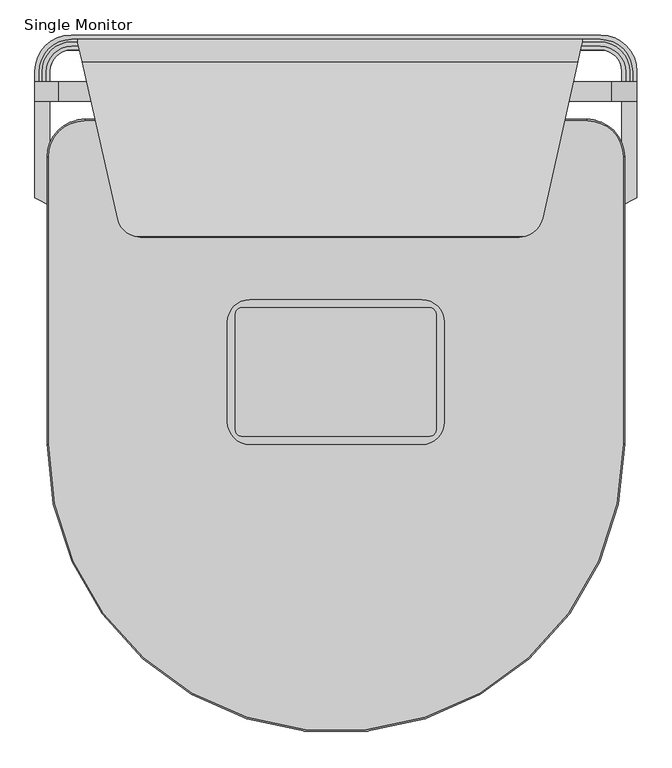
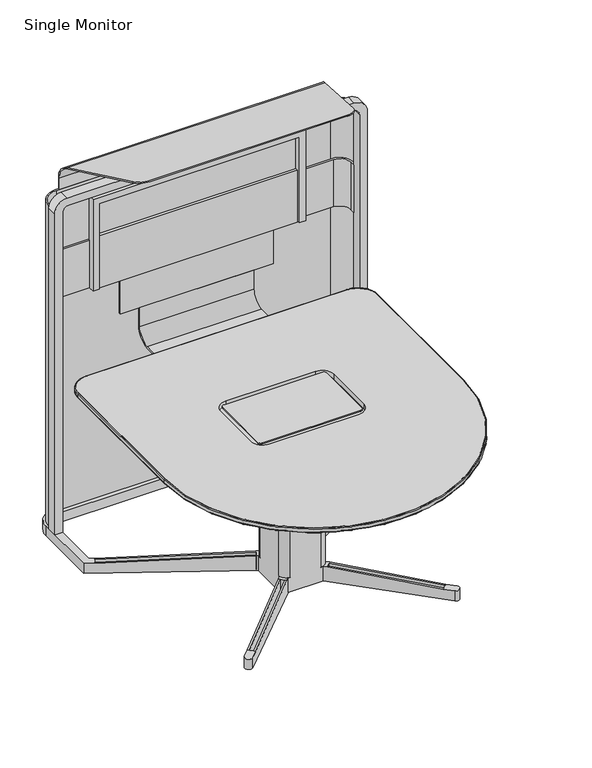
"""IFC4 building model written with IfcOpenShell, lengths in millimetres: furniture geometry, Steelcase - Media Scape - Table - Desk Height - Small D Shape with Attached Totem : Single Monitor."""

from ifc_helpers import new_model, si_unit, point, frame, frame_2d, origin, place, context, project, spatial, polyline, circle_curve, ellipse_curve, trimmed, segment, composite_curve, outline, extrude, faceted_brep, source, transform, mapped, element, save
from ifc_brep_helpers import plane_surface, cylinder_surface, revolved_surface, spline_surface, advanced_brep


def single_monitor_780de22c(model_context):
    return source(origin(), model_context, "Body", "SolidModel", [
        advanced_brep(
        [(1397.2351622, -9.5377223, 1503.3400905), (332.5244847, -9.5377223, 1503.3400905), (332.5244847, -16.6294875, 1534.006464), (341.5808315, -56.6467867, 1569.384563), (1387.7949199, -56.6467867, 1569.384563), (1397.2351622, -14.6177223, 1529.490991), (416.5601746, -387.9581734, 1683.464222), (452.6167787, -425.0561756, 1696.2380886), (1276.5124897, -425.0561756, 1696.2380886), (1313.6061785, -386.9437541, 1683.1149294), (464.9378119, -426.6108286, 1691.7230483), (1264.0410903, -426.6108286, 1691.7230483), (416.5601746, -387.9581734, 1678.4138717), (342.2559242, -59.6298204, 1565.3613536), (1387.124894, -59.6298204, 1565.3613536), (1313.6061785, -386.9437541, 1678.0645792), (332.5244847, -16.6294875, 1518.5197543), (332.5244847, -14.6177223, 1502.2567194), (1397.2351622, -14.6177223, 1502.2567194), (332.5244847, -14.6177223, 1453.4514612), (1397.2351622, -14.6177223, 1453.4514612), (332.5244847, -9.5377223, 1453.4514612), (1397.2351622, -9.5377223, 1453.4514612)],
        [
            (0, 1),
            (1, 2, circle_curve(frame((332.5244847, -79.3877223, 1503.3400905), z_axis=(1.0, 0.0, 0.0), x_axis=(0.0, -1.0, 0.0)), 69.85)),
            (2, 3, ellipse_curve(frame((346.7273507, -79.3877223, 1503.3400905), z_axis=(0.9753352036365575, 0.22072888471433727, 0.0), x_axis=(0.2207288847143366, -0.9753352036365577, 0.0)), 71.616404, 69.85)),
            (3, 4),
            (4, 5, ellipse_curve(frame((1382.6870274, -79.3877223, 1503.3400905), z_axis=(-0.9756907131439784, 0.21915207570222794, 0.0), x_axis=(0.21915207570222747, 0.9756907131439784, 0.0)), 71.5903094, 69.85)),
            (5, 0, circle_curve(frame((1397.2351622, -79.3877223, 1503.3400905), z_axis=(-1.0, 0.0, 0.0), x_axis=(0.0, -1.0, 0.0)), 69.85)),
            (3, 6),
            (6, 7, ellipse_curve(frame((464.9378119, -377.0097919, 1679.6943919), z_axis=(0.0, 0.3255681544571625, 0.9455185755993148), x_axis=(0.0, 0.9455185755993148, -0.32556815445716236)), 52.4590823, 49.6010368)),
            (7, 8),
            (8, 9, ellipse_curve(frame((1264.0410903, -375.8108286, 1679.2815558), z_axis=(0.0, 0.3255681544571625, 0.9455185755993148), x_axis=(0.0, 0.9455185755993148, -0.32556815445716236)), 53.7271306, 50.8)),
            (9, 4),
            (7, 10, ellipse_curve(frame((464.9378119, -377.0097919, 1835.7749188), z_axis=(0.0, -0.9455185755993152, 0.32556815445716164), x_axis=(0.0, -0.3255681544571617, -0.9455185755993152)), 152.3522375, 49.6010368)),
            (10, 11),
            (11, 8, ellipse_curve(frame((1264.0410903, -375.8108286, 1839.2569609), z_axis=(0.0, -0.9455185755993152, 0.32556815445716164), x_axis=(0.0, -0.3255681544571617, -0.9455185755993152)), 156.0349171, 50.8)),
            (10, 12, ellipse_curve(frame((464.9378119, -377.0097919, 1674.6440417), z_axis=(0.0, -0.32556815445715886, -0.9455185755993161), x_axis=(0.0, 0.9455185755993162, -0.32556815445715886)), 52.4590823, 49.6010368)),
            (12, 13),
            (13, 14),
            (14, 15),
            (15, 11, ellipse_curve(frame((1264.0410903, -375.8108286, 1674.2312055), z_axis=(0.0, -0.32556815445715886, -0.9455185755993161), x_axis=(0.0, 0.9455185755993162, -0.32556815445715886)), 53.7271306, 50.8)),
            (13, 16, ellipse_curve(frame((347.1733564, -81.3584885, 1502.2567194), z_axis=(-0.9753352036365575, -0.22072888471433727, 0.0), x_axis=(-0.2207288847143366, 0.9753352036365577, 0.0)), 68.4285423, 66.7407662)),
            (16, 17, circle_curve(frame((332.5244847, -81.3584885, 1502.2567194), z_axis=(-1.0, 0.0, 0.0), x_axis=(0.0, -1.0, 0.0)), 66.7407662)),
            (17, 18),
            (18, 14, ellipse_curve(frame((1382.2443692, -81.3584885, 1502.2567194), z_axis=(0.9756907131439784, -0.21915207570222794, 0.0), x_axis=(-0.21915207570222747, -0.9756907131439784, 0.0)), 68.4036092, 66.7407662)),
            (17, 19),
            (19, 20),
            (20, 18),
            (19, 21),
            (21, 22),
            (22, 20),
            (0, 22),
            (21, 1),
            (12, 6),
            (2, 16),
            (5, 18),
            (9, 15),
        ],
        [
            cylinder_surface(frame((318.3109957, -79.3877223, 1503.3400905), z_axis=(1.0, 0.0, 0.0), x_axis=(0.0, -1.0, 0.0)), 69.85),
            plane_surface(frame((1420.0007044, -56.6467867, 1569.384563), z_axis=(0.0, 0.3255681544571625, 0.9455185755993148), x_axis=(-1.0, 0.0, 0.0))),
            plane_surface(frame((1420.0007044, -425.0561756, 1696.2380886), z_axis=(0.0, -0.9455185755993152, 0.32556815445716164), x_axis=(-1.0, 0.0, 0.0))),
            plane_surface(frame((1420.0007044, -426.6108286, 1691.7230483), z_axis=(0.0, -0.32556815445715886, -0.9455185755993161), x_axis=(-1.0, 0.0, 0.0))),
            revolved_surface(polyline([(332.0692005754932, -148.09925470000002, 1502.2567194), (1397.2351622, -148.09925470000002, 1502.2567194)]), (318.3109957, -81.3584885, 1502.2567194), (-1.0, 0.0, 0.0)),
            plane_surface(frame((1420.0007044, -14.6177223, 1502.2567194), z_axis=(0.0, -1.0, 0.0), x_axis=(-1.0, 0.0, 0.0))),
            plane_surface(frame((1420.0007044, -14.6177223, 1453.4514612), z_axis=(0.0, 0.0, -1.0), x_axis=(-1.0, 0.0, 0.0))),
            plane_surface(frame((1420.0007044, -9.5377223, 1453.4514612), z_axis=(0.0, 1.0, 0.0), x_axis=(-1.0, 0.0, 0.0))),
            plane_surface(frame((416.5601746, -387.9581734, 1813.8324688), z_axis=(-0.9753352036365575, -0.22072888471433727, 0.0), x_axis=(0.0, 0.0, -1.0))),
            plane_surface(frame((332.5244847, -16.6294875, 1813.8324688), z_axis=(-1.0, 0.0, 0.0), x_axis=(0.0, 0.0, -1.0))),
            plane_surface(frame((1397.2351622, -6.3978751, 1813.8324688), z_axis=(1.0, 0.0, 0.0), x_axis=(0.0, 0.0, -1.0))),
            plane_surface(frame((1397.2351622, -14.6177223, 1813.8324688), z_axis=(0.9756907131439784, -0.21915207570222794, 0.0), x_axis=(0.0, 0.0, -1.0))),
            cylinder_surface(frame((1264.0410903, -375.8108286, 1453.4514612), z_axis=(0.0, 0.0, -1.0), x_axis=(1.0, 0.0, 0.0)), 50.8),
            cylinder_surface(frame((464.9378119, -377.0097919, 1453.4514612), z_axis=(0.0, 0.0, -1.0), x_axis=(1.0, 0.0, 0.0)), 49.6010368),
        ],
        [
            (0, [[1, 2, 3, 4, 5, 6]]),
            (1, [[-4, 7, 8, 9, 10, 11]]),
            (2, [[-9, 12, 13, 14]]),
            (3, [[-13, 15, 16, 17, 18, 19]]),
            (4, [[-17, 20, 21, 22, 23]]),
            (5, [[-22, 24, 25, 26]]),
            (6, [[-25, 27, 28, 29]]),
            (7, [[-1, 30, -28, 31]]),
            (8, [[32, -7, -3, 33, -20, -16]]),
            (9, [[-33, -2, -31, -27, -24, -21]]),
            (10, [[34, -26, -29, -30, -6]]),
            (11, [[-34, -5, -11, 35, -18, -23]]),
            (12, [[-35, -10, -14, -19]]),
            (13, [[-32, -15, -12, -8]]),
        ],
    ),
        extrude(outline(composite_curve([segment(polyline([(256.1316294, -78.1177223), (256.1316294, -98.4376787), (251.0516294, -98.4376787), (251.0516294, -78.1177223)]), True, "CONTINUOUS"), segment(trimmed(circle_curve(frame_2d((319.6316294, -78.1177223)), 68.58), [point((251.0516294, -78.1177223))], [point((319.6316294, -9.5377223))], False, "CARTESIAN"), True, "CONTINUOUS"), segment(polyline([(319.6316294, -9.5377223), (1434.9866114, -9.5377223)]), True, "CONTINUOUS"), segment(trimmed(circle_curve(frame_2d((1434.9866114, -78.1177223)), 68.58), [point((1434.9866114, -9.5377223))], [point((1503.5666114, -78.1177223))], False, "CARTESIAN"), True, "CONTINUOUS"), segment(polyline([(1503.5666114, -78.1177223), (1503.5666114, -98.4376787), (1498.4866114, -98.4376787), (1498.4866114, -78.1177223)]), True, "CONTINUOUS"), segment(trimmed(circle_curve(frame_2d((1434.9866114, -78.1177223)), 63.5), [point((1498.4866114, -78.1177223))], [point((1434.9866114, -14.6177223))], True, "CARTESIAN"), True, "CONTINUOUS"), segment(polyline([(1434.9866114, -14.6177223), (319.6316294, -14.6177223)]), True, "CONTINUOUS"), segment(trimmed(circle_curve(frame_2d((319.6316294, -78.1177223)), 63.5), [point((319.6316294, -14.6177223))], [point((256.1316294, -78.1177223))], True, "CARTESIAN"), True, "CONTINUOUS")], self_intersect=False)), frame((0.0, 0.0, 75.7809), z_axis=(0.0, 0.0, 1.0), x_axis=(1.0, 0.0, 0.0)), (0.0, 0.0, 1.0), 1377.6705612),
        extrude(outline(composite_curve([segment(polyline([(347.0842173, -181.3052223), (1407.5340235, -181.3052223)]), True, "CONTINUOUS"), segment(trimmed(circle_curve(frame_2d((1407.5340235, -257.5052223)), 76.2), [point((1407.5340235, -181.3052223))], [point((1483.7340235, -257.5052223))], False, "CARTESIAN"), True, "CONTINUOUS"), segment(polyline([(1483.7340235, -257.5052223), (1483.7340235, -863.6833531)]), True, "CONTINUOUS"), segment(trimmed(circle_curve(frame_2d((877.3091204, -863.6833531)), 606.4249031), [point((1483.7340235, -863.6833531))], [point((270.8842173, -863.6833531))], False, "CARTESIAN"), True, "CONTINUOUS"), segment(polyline([(270.8842173, -863.6833531), (270.8842173, -257.5052223)]), True, "CONTINUOUS"), segment(trimmed(circle_curve(frame_2d((347.0842173, -257.5052223)), 76.2), [point((270.8842173, -257.5052223))], [point((347.0842173, -181.3052223))], False, "CARTESIAN"), True, "CONTINUOUS")], self_intersect=False), holes=[composite_curve([segment(polyline([(648.328039, -606.3800591), (648.328039, -816.3957161)]), True, "CONTINUOUS"), segment(trimmed(circle_curve(frame_2d((696.243457, -816.3957161)), 47.915418), [point((648.328039, -816.3957161))], [point((696.243457, -864.3111341))], True, "CARTESIAN"), True, "CONTINUOUS"), segment(polyline([(696.243457, -864.3111341), (1058.3747838, -864.3111341)]), True, "CONTINUOUS"), segment(trimmed(circle_curve(frame_2d((1058.3747838, -816.3957161)), 47.915418), [point((1058.3747838, -864.3111341))], [point((1106.2902018, -816.3957161))], True, "CARTESIAN"), True, "CONTINUOUS"), segment(polyline([(1106.2902018, -816.3957161), (1106.2902018, -606.3800591)]), True, "CONTINUOUS"), segment(trimmed(circle_curve(frame_2d((1058.6594047, -606.3800591)), 47.6307971), [point((1106.2902018, -606.3800591))], [point((1058.6594047, -558.749262))], True, "CARTESIAN"), True, "CONTINUOUS"), segment(polyline([(1058.6594047, -558.749262), (695.9588361, -558.749262)]), True, "CONTINUOUS"), segment(trimmed(circle_curve(frame_2d((695.9588361, -606.3800591)), 47.6307971), [point((695.9588361, -558.749262))], [point((648.328039, -606.3800591))], True, "CARTESIAN"), True, "CONTINUOUS")], self_intersect=False)]), frame((0.0, 0.0, 727.0013262), z_axis=(0.0, 0.0, 1.0), x_axis=(1.0, 0.0, 0.0)), (0.0, 0.0, 1.0), 20.0660138),
        advanced_brep(
        [(267.7091931, -257.5052223, 730.1763504), (347.0842173, -178.1301981, 730.1763504), (347.0842173, -181.3052223, 727.0013262), (270.8842173, -257.5052223, 727.0013262), (267.7091931, -257.5052223, 743.8923158), (347.0842173, -178.1301981, 743.8923158), (270.8842173, -257.5052223, 747.06734), (347.0842173, -181.3052223, 747.06734), (270.8842173, -863.6833531, 727.0013262), (267.7091931, -863.6833531, 730.1763504), (267.7091931, -863.6833531, 743.8923158), (270.8842173, -863.6833531, 747.06734), (1486.9090478, -863.6833531, 730.1763504), (1483.7340235, -863.6833531, 727.0013262), (1486.9090478, -863.6833531, 743.8923158), (1483.7340235, -863.6833531, 747.06734), (1483.7340235, -257.5052223, 727.0013262), (1486.9090478, -257.5052223, 730.1763504), (1486.9090478, -257.5052223, 743.8923158), (1483.7340235, -257.5052223, 747.06734), (1407.5340235, -178.1301981, 730.1763504), (1407.5340235, -181.3052223, 727.0013262), (1407.5340235, -178.1301981, 743.8923158), (1407.5340235, -181.3052223, 747.06734)],
        [
            (0, 1, circle_curve(frame((347.0842173, -257.5052223, 730.1763504), z_axis=(0.0, 0.0, -1.0), x_axis=(0.0, 1.0, 0.0)), 79.3750242)),
            (1, 2, circle_curve(frame((347.0842173, -181.3052223, 730.1763504), z_axis=(-1.0, 0.0, 0.0), x_axis=(0.0, -1.0, 0.0)), 3.1750242)),
            (2, 3, circle_curve(frame((347.0842173, -257.5052223, 727.0013262), z_axis=(0.0, 0.0, 1.0), x_axis=(0.0, 1.0, 0.0)), 76.2)),
            (3, 0, circle_curve(frame((270.8842173, -257.5052223, 730.1763504), z_axis=(0.0, 1.0, 0.0), x_axis=(1.0, 0.0, 0.0)), 3.1750242)),
            (4, 5, circle_curve(frame((347.0842173, -257.5052223, 743.8923158), z_axis=(0.0, 0.0, -1.0), x_axis=(0.0, 1.0, 0.0)), 79.3750242)),
            (5, 1),
            (0, 4),
            (6, 7, circle_curve(frame((347.0842173, -257.5052223, 747.06734), z_axis=(0.0, 0.0, -1.0), x_axis=(0.0, 1.0, 0.0)), 76.2)),
            (7, 5, circle_curve(frame((347.0842173, -181.3052223, 743.8923158), z_axis=(-1.0, 0.0, 0.0), x_axis=(0.0, -1.0, 0.0)), 3.1750242)),
            (4, 6, circle_curve(frame((270.8842173, -257.5052223, 743.8923158), z_axis=(0.0, 1.0, 0.0), x_axis=(1.0, 0.0, 0.0)), 3.1750242)),
            (2, 7),
            (6, 3),
            (3, 8),
            (8, 9, circle_curve(frame((270.8842173, -863.6833531, 730.1763504), z_axis=(0.0, 1.0, 0.0), x_axis=(1.0, 0.0, 0.0)), 3.1750242)),
            (9, 0),
            (9, 10),
            (10, 4),
            (10, 11, circle_curve(frame((270.8842173, -863.6833531, 743.8923158), z_axis=(0.0, 1.0, 0.0), x_axis=(1.0, 0.0, 0.0)), 3.1750242)),
            (11, 6),
            (11, 8),
            (12, 9, circle_curve(frame((877.3091204, -863.6833531, 730.1763504), z_axis=(0.0, 0.0, -1.0), x_axis=(-1.0, 0.0, 0.0)), 609.5999273)),
            (8, 13, circle_curve(frame((877.3091204, -863.6833531, 727.0013262), z_axis=(0.0, 0.0, 1.0), x_axis=(-1.0, 0.0, 0.0)), 606.4249031)),
            (13, 12, circle_curve(frame((1483.7340235, -863.6833531, 730.1763504), z_axis=(0.0, -1.0, 0.0), x_axis=(-1.0, 0.0, 0.0)), 3.1750242)),
            (14, 10, circle_curve(frame((877.3091204, -863.6833531, 743.8923158), z_axis=(0.0, 0.0, -1.0), x_axis=(-1.0, 0.0, 0.0)), 609.5999273)),
            (12, 14),
            (15, 11, circle_curve(frame((877.3091204, -863.6833531, 747.06734), z_axis=(0.0, 0.0, -1.0), x_axis=(-1.0, 0.0, 0.0)), 606.4249031)),
            (14, 15, circle_curve(frame((1483.7340235, -863.6833531, 743.8923158), z_axis=(0.0, -1.0, 0.0), x_axis=(-1.0, 0.0, 0.0)), 3.1750242)),
            (15, 13),
            (13, 16),
            (16, 17, circle_curve(frame((1483.7340235, -257.5052223, 730.1763504), z_axis=(0.0, -1.0, 0.0), x_axis=(-1.0, 0.0, 0.0)), 3.1750242)),
            (17, 12),
            (17, 18),
            (18, 14),
            (18, 19, circle_curve(frame((1483.7340235, -257.5052223, 743.8923158), z_axis=(0.0, -1.0, 0.0), x_axis=(-1.0, 0.0, 0.0)), 3.1750242)),
            (19, 15),
            (19, 16),
            (20, 17, circle_curve(frame((1407.5340235, -257.5052223, 730.1763504), z_axis=(0.0, 0.0, -1.0), x_axis=(1.0, 0.0, 0.0)), 79.3750242)),
            (16, 21, circle_curve(frame((1407.5340235, -257.5052223, 727.0013262), z_axis=(0.0, 0.0, 1.0), x_axis=(1.0, 0.0, 0.0)), 76.2)),
            (21, 20, circle_curve(frame((1407.5340235, -181.3052223, 730.1763504), z_axis=(1.0, 0.0, 0.0), x_axis=(0.0, -1.0, 0.0)), 3.1750242)),
            (22, 18, circle_curve(frame((1407.5340235, -257.5052223, 743.8923158), z_axis=(0.0, 0.0, -1.0), x_axis=(1.0, 0.0, 0.0)), 79.3750242)),
            (20, 22),
            (23, 19, circle_curve(frame((1407.5340235, -257.5052223, 747.06734), z_axis=(0.0, 0.0, -1.0), x_axis=(1.0, 0.0, 0.0)), 76.2)),
            (22, 23, circle_curve(frame((1407.5340235, -181.3052223, 743.8923158), z_axis=(1.0, 0.0, 0.0), x_axis=(0.0, -1.0, 0.0)), 3.1750242)),
            (23, 21),
            (21, 2),
            (1, 20),
            (5, 22),
            (7, 23),
        ],
        [
            revolved_surface(trimmed(ellipse_curve(frame((347.0842173, -181.3052223, 730.1763504), z_axis=(1.0, 0.0, 0.0), x_axis=(0.0, -1.0, 0.0)), 3.1750242, 3.1750242), [point((347.0842173, -181.3052223, 727.0013262))], [point((347.0842173, -178.1301981, 730.1763504))], True, "CARTESIAN"), (347.0842173, -257.5052223, 160.274), (0.0, 0.0, 1.0)),
            cylinder_surface(frame((347.0842173, -257.5052223, 160.274), z_axis=(0.0, 0.0, 1.0), x_axis=(0.0, 1.0, 0.0)), 79.3750242),
            revolved_surface(trimmed(ellipse_curve(frame((347.0842173, -181.3052223, 743.8923158), z_axis=(1.0, 0.0, 0.0), x_axis=(0.0, -1.0, 0.0)), 3.1750242, 3.1750242), [point((347.0842173, -178.1301981, 743.8923158))], [point((347.0842173, -181.3052223, 747.06734))], True, "CARTESIAN"), (347.0842173, -257.5052223, 160.274), (0.0, 0.0, 1.0)),
            revolved_surface(polyline([(347.0842173, -181.30522230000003, 747.06734), (347.0842173, -181.30522230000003, 727.0013262)]), (347.0842173, -257.5052223, 160.274), (0.0, 0.0, 1.0)),
            cylinder_surface(frame((270.8842173, -257.5052223, 730.1763504), z_axis=(0.0, 1.0, 0.0), x_axis=(1.0, 0.0, 0.0)), 3.1750242),
            plane_surface(frame((267.7091931, -257.5052223, 730.1763504), z_axis=(-1.0, 0.0, 0.0), x_axis=(0.0, -1.0, 0.0))),
            cylinder_surface(frame((270.8842173, -257.5052223, 743.8923158), z_axis=(0.0, 1.0, 0.0), x_axis=(1.0, 0.0, 0.0)), 3.1750242),
            plane_surface(frame((270.8842173, -257.5052223, 747.06734), z_axis=(1.0, 0.0, 0.0), x_axis=(0.0, -1.0, 0.0))),
            revolved_surface(trimmed(ellipse_curve(frame((270.8842173, -863.6833531, 730.1763504), z_axis=(0.0, 1.0, 0.0), x_axis=(1.0, 0.0, 0.0)), 3.1750242, 3.1750242), [point((270.8842173, -863.6833531, 727.0013262))], [point((267.7091931, -863.6833531, 730.1763504))], True, "CARTESIAN"), (877.3091204, -863.6833531, 160.274), (0.0, 0.0, 1.0)),
            cylinder_surface(frame((877.3091204, -863.6833531, 160.274), z_axis=(0.0, 0.0, 1.0), x_axis=(-1.0, 0.0, 0.0)), 609.5999273),
            revolved_surface(trimmed(ellipse_curve(frame((270.8842173, -863.6833531, 743.8923158), z_axis=(0.0, 1.0, 0.0), x_axis=(1.0, 0.0, 0.0)), 3.1750242, 3.1750242), [point((267.7091931, -863.6833531, 743.8923158))], [point((270.8842173, -863.6833531, 747.06734))], True, "CARTESIAN"), (877.3091204, -863.6833531, 160.274), (0.0, 0.0, 1.0)),
            revolved_surface(polyline([(270.88421729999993, -863.6833531, 747.06734), (270.88421729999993, -863.6833531, 727.0013262)]), (877.3091204, -863.6833531, 160.274), (0.0, 0.0, 1.0)),
            cylinder_surface(frame((1483.7340235, -863.6833531, 730.1763504), z_axis=(0.0, -1.0, 0.0), x_axis=(-1.0, 0.0, 0.0)), 3.1750242),
            plane_surface(frame((1486.9090478, -863.6833531, 730.1763504), z_axis=(1.0, 0.0, 0.0), x_axis=(0.0, 1.0, 0.0))),
            cylinder_surface(frame((1483.7340235, -863.6833531, 743.8923158), z_axis=(0.0, -1.0, 0.0), x_axis=(-1.0, 0.0, 0.0)), 3.1750242),
            plane_surface(frame((1483.7340235, -863.6833531, 747.06734), z_axis=(-1.0, 0.0, 0.0), x_axis=(0.0, 1.0, 0.0))),
            revolved_surface(trimmed(ellipse_curve(frame((1483.7340235, -257.5052223, 730.1763504), z_axis=(0.0, -1.0, 0.0), x_axis=(-1.0, 0.0, 0.0)), 3.1750242, 3.1750242), [point((1483.7340235, -257.5052223, 727.0013262))], [point((1486.9090478, -257.5052223, 730.1763504))], True, "CARTESIAN"), (1407.5340235, -257.5052223, 160.274), (0.0, 0.0, 1.0)),
            cylinder_surface(frame((1407.5340235, -257.5052223, 160.274), z_axis=(0.0, 0.0, 1.0), x_axis=(1.0, 0.0, 0.0)), 79.3750242),
            revolved_surface(trimmed(ellipse_curve(frame((1483.7340235, -257.5052223, 743.8923158), z_axis=(0.0, -1.0, 0.0), x_axis=(-1.0, 0.0, 0.0)), 3.1750242, 3.1750242), [point((1486.9090478, -257.5052223, 743.8923158))], [point((1483.7340235, -257.5052223, 747.06734))], True, "CARTESIAN"), (1407.5340235, -257.5052223, 160.274), (0.0, 0.0, 1.0)),
            revolved_surface(polyline([(1483.7340235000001, -257.5052223, 747.06734), (1483.7340235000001, -257.5052223, 727.0013262)]), (1407.5340235, -257.5052223, 160.274), (0.0, 0.0, 1.0)),
            cylinder_surface(frame((1407.5340235, -181.3052223, 730.1763504), z_axis=(1.0, 0.0, 0.0), x_axis=(0.0, -1.0, 0.0)), 3.1750242),
            plane_surface(frame((1407.5340235, -178.1301981, 730.1763504), z_axis=(0.0, 1.0, 0.0), x_axis=(-1.0, 0.0, 0.0))),
            cylinder_surface(frame((1407.5340235, -181.3052223, 743.8923158), z_axis=(1.0, 0.0, 0.0), x_axis=(0.0, -1.0, 0.0)), 3.1750242),
            plane_surface(frame((1407.5340235, -181.3052223, 747.06734), z_axis=(0.0, -1.0, 0.0), x_axis=(-1.0, 0.0, 0.0))),
        ],
        [
            (0, [[1, 2, 3, 4]]),
            (1, [[5, 6, -1, 7]]),
            (2, [[8, 9, -5, 10]]),
            (3, [[-3, 11, -8, 12]]),
            (4, [[-4, 13, 14, 15]]),
            (5, [[-7, -15, 16, 17]]),
            (6, [[-10, -17, 18, 19]]),
            (7, [[-12, -19, 20, -13]]),
            (8, [[21, -14, 22, 23]]),
            (9, [[24, -16, -21, 25]]),
            (10, [[26, -18, -24, 27]]),
            (11, [[-22, -20, -26, 28]]),
            (12, [[-23, 29, 30, 31]]),
            (13, [[-25, -31, 32, 33]]),
            (14, [[-27, -33, 34, 35]]),
            (15, [[-28, -35, 36, -29]]),
            (16, [[37, -30, 38, 39]]),
            (17, [[40, -32, -37, 41]]),
            (18, [[42, -34, -40, 43]]),
            (19, [[-38, -36, -42, 44]]),
            (20, [[-39, 45, -2, 46]]),
            (21, [[-41, -46, -6, 47]]),
            (22, [[-43, -47, -9, 48]]),
            (23, [[-44, -48, -11, -45]]),
        ],
    ),
        advanced_brep(
        [(347.3175364, -245.0384687, 717.47634), (1407.3007044, -245.0384687, 717.47634), (1420.0007044, -257.7384687, 717.47634), (1420.0007044, -864.5887133, 717.47634), (334.6175364, -864.5887133, 717.47634), (334.6175364, -257.7384687, 717.47634), (347.0842173, -181.3052223, 727.0013262), (270.8842173, -257.5052223, 727.0013262), (270.8842173, -863.6833531, 727.0013262), (1483.7340235, -863.6833531, 727.0013262), (1483.7340235, -257.5052223, 727.0013262), (1407.5340235, -181.3052223, 727.0013262)],
        [
            (0, 1),
            (1, 2, circle_curve(frame((1407.3007044, -257.7384687, 717.47634), z_axis=(0.0, 0.0, -1.0), x_axis=(1.0, 0.0, 0.0)), 12.7)),
            (2, 3),
            (3, 4, circle_curve(frame((877.3091204, -864.5887133, 717.47634), z_axis=(0.0, 0.0, -1.0), x_axis=(1.0, 0.0, 0.0)), 542.691584)),
            (4, 5),
            (5, 0, circle_curve(frame((347.3175364, -257.7384687, 717.47634), z_axis=(0.0, 0.0, -1.0), x_axis=(1.0, 0.0, 0.0)), 12.7)),
            (6, 7, circle_curve(frame((347.0842173, -257.5052223, 727.0013262), z_axis=(0.0, 0.0, 1.0), x_axis=(1.0, 0.0, 0.0)), 76.2)),
            (7, 8),
            (8, 9, circle_curve(frame((877.3091204, -863.6833531, 727.0013262), z_axis=(0.0, 0.0, 1.0), x_axis=(1.0, 0.0, 0.0)), 606.4249031)),
            (9, 10),
            (10, 11, circle_curve(frame((1407.5340235, -257.5052223, 727.0013262), z_axis=(0.0, 0.0, 1.0), x_axis=(1.0, 0.0, 0.0)), 76.2)),
            (11, 6),
            (11, 1),
            (0, 6),
            (10, 2),
            (9, 3),
            (8, 4),
            (7, 5),
        ],
        [
            plane_surface(frame((877.3091204, -455.7885502, 717.47634), z_axis=(0.0, 0.0, -1.0), x_axis=(-1.0, 0.0, 0.0))),
            plane_surface(frame((877.3091204, -434.1645992, 727.0013262), z_axis=(0.0, 0.0, 1.0), x_axis=(-1.0, 0.0, 0.0))),
            plane_surface(frame((877.3091204, -181.3052223, 727.0013262), z_axis=(0.0, 0.1478092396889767, -0.9890158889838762), x_axis=(1.0, 0.0, 0.0))),
            spline_surface(2, 1, [[(1407.5340235, -181.3052223, 727.0013262), (1407.3007044, -245.0384687, 717.47634)], [(1483.7340235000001, -181.3052222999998, 727.0013262), (1420.0007044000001, -245.03846869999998, 717.47634)], [(1483.7340235, -257.5052223, 727.0013262), (1420.0007044, -257.7384687, 717.47634)]], [3, 3], [2, 2], [0.0, 1.0], [0.0, 1.0], weights=[[1.0, 1.0], [0.7071067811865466, 0.7071067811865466], [1.0, 1.0]]),
            plane_surface(frame((1483.7340235, -560.5942877, 727.0013262), z_axis=(0.1478090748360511, 0.0, -0.9890159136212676), x_axis=(0.0, -1.0, 0.0))),
            spline_surface(2, 1, [[(1483.7340235, -863.6833531, 727.0013262), (1420.0007044, -864.5887133, 717.47634)], [(1483.7340235, -1470.1082562, 727.0013262), (1420.0007044, -1407.2802972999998, 717.47634)], [(877.3091204, -1470.1082562, 727.0013262), (877.3091204, -1407.2802972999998, 717.47634)], [(270.88421730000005, -1470.1082562, 727.0013262), (334.61753640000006, -1407.2802972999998, 717.47634)], [(270.8842173, -863.6833531, 727.0013262), (334.6175364, -864.5887133, 717.47634)]], [3, 2, 3], [2, 2], [0.0, 1.0, 2.0], [0.0, 1.0], weights=[[1.0, 1.0], [0.7071067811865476, 0.7071067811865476], [1.0, 1.0], [0.7071067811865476, 0.7071067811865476], [1.0, 1.0]]),
            plane_surface(frame((270.8842173, -560.5942877, 727.0013262), z_axis=(-0.14780907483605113, 0.0, -0.9890159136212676), x_axis=(0.0, 1.0, 0.0))),
            spline_surface(2, 1, [[(270.8842173, -257.5052223, 727.0013262), (334.6175364, -257.7384687, 717.47634)], [(270.8842173, -181.30522230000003, 727.0013262), (334.6175364, -245.0384687, 717.47634)], [(347.0842173, -181.3052223, 727.0013262), (347.3175364, -245.0384687, 717.47634)]], [3, 3], [2, 2], [0.0, 1.0], [0.0, 1.0], weights=[[1.0, 1.0], [0.7071067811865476, 0.7071067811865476], [1.0, 1.0]]),
        ],
        [
            (0, [[1, 2, 3, 4, 5, 6]]),
            (1, [[7, 8, 9, 10, 11, 12]]),
            (2, [[-12, 13, -1, 14]]),
            (3, [[-11, 15, -2, -13]]),
            (4, [[-10, 16, -3, -15]]),
            (5, [[-9, 17, -4, -16]]),
            (6, [[-8, 18, -5, -17]]),
            (7, [[-7, -14, -6, -18]]),
        ],
    ),
        extrude(outline(composite_curve([segment(trimmed(circle_curve(frame_2d((1075.9751918, -588.6576593)), 12.7), [point((1075.9751918, -575.9576593))], [point((1088.6751918, -588.6576593))], False, "CARTESIAN"), True, "CONTINUOUS"), segment(polyline([(1088.6751918, -588.6576593), (1088.6751918, -833.8946767)]), True, "CONTINUOUS"), segment(trimmed(circle_curve(frame_2d((1075.9751918, -833.8946767)), 12.7), [point((1088.6751918, -833.8946767))], [point((1075.9751918, -846.5946767))], False, "CARTESIAN"), True, "CONTINUOUS"), segment(polyline([(1075.9751918, -846.5946767), (678.1351344, -846.5946767)]), True, "CONTINUOUS"), segment(trimmed(circle_curve(frame_2d((678.1351344, -833.8946767)), 12.7), [point((678.1351344, -846.5946767))], [point((665.4351344, -833.8946767))], False, "CARTESIAN"), True, "CONTINUOUS"), segment(polyline([(665.4351344, -833.8946767), (665.4351344, -588.6576593)]), True, "CONTINUOUS"), segment(trimmed(circle_curve(frame_2d((678.1351344, -588.6576593)), 12.7), [point((665.4351344, -588.6576593))], [point((678.1351344, -575.9576593))], False, "CARTESIAN"), True, "CONTINUOUS"), segment(polyline([(678.1351344, -575.9576593), (1075.9751918, -575.9576593)]), True, "CONTINUOUS")], self_intersect=False)), frame((0.0, 0.0, 743.00334), z_axis=(0.0, 0.0, 1.0), x_axis=(1.0, 0.0, 0.0)), (0.0, 0.0, 1.0), 4.064),
        faceted_brep([(974.6418421, -612.9147058, 512.96062), (974.6418421, -810.1456903, 512.96062), (779.9763987, -810.1456903, 512.96062), (779.9763987, -612.9147058, 512.96062), (1321.8090235, -267.0302223, 717.47634), (432.8092173, -267.0302223, 717.47634), (432.8092173, -1156.0302465, 717.47634), (1321.8090235, -1156.0302465, 717.47634)], [[[0, 1, 2, 3]], [[4, 5, 6, 7]], [[4, 7, 1, 0]], [[7, 6, 2, 1]], [[6, 5, 3, 2]], [[5, 4, 0, 3]]]),
        extrude(outline(composite_curve([segment(polyline([(-328.7191894, 715.924386), (-93.2222148, 715.924386)]), True, "CONTINUOUS"), segment(trimmed(circle_curve(frame_2d((-93.2222148, 769.3651209)), 53.4407348), [point((-93.2222148, 715.924386))], [point((-39.78148, 769.3651209))], True, "CARTESIAN"), True, "CONTINUOUS"), segment(polyline([(-39.78148, 769.3651209), (-39.78148, 850.8492172), (-31.84398, 850.8492172), (-31.84398, 769.0831022)]), True, "CONTINUOUS"), segment(trimmed(circle_curve(frame_2d((-92.9528649, 769.0831022)), 61.1088849), [point((-31.84398, 769.0831022))], [point((-92.9528649, 707.9742172))], False, "CARTESIAN"), True, "CONTINUOUS"), segment(polyline([(-92.9528649, 707.9742172), (-328.7191894, 707.9742172), (-328.7191894, 715.924386)]), True, "CONTINUOUS")], self_intersect=False)), frame((645.5341157, 0.0, 0.0), z_axis=(1.0, 0.0, 0.0), x_axis=(0.0, 1.0, 0.0)), (0.0, 0.0, 1.0), 463.55),
        extrude(outline(polyline([(1188.4590235, -39.78148), (566.1592173, -39.78148), (566.1592173, -31.84398), (1188.4590235, -31.84398), (1188.4590235, -39.78148)])), frame((0.0, 0.0, 850.8492172), z_axis=(0.0, 0.0, 1.0), x_axis=(1.0, 0.0, 0.0)), (0.0, 0.0, 1.0), 146.4817828),
        extrude(outline(composite_curve([segment(trimmed(circle_curve(frame_2d((1435.112425, -77.4940467)), 53.5875745), [point((1435.112425, -23.9064722))], [point((1488.6999995, -77.4940467))], False, "CARTESIAN"), True, "CONTINUOUS"), segment(polyline([(1488.6999995, -77.4940467), (1488.6999995, -98.4376787), (1480.7572357, -98.4376787), (1480.7572357, -76.2)]), True, "CONTINUOUS"), segment(trimmed(circle_curve(frame_2d((1436.3072357, -76.2)), 44.45), [point((1480.7572357, -76.2))], [point((1436.3072357, -31.75))], True, "CARTESIAN"), True, "CONTINUOUS"), segment(polyline([(1436.3072357, -31.75), (318.3109957, -31.75)]), True, "CONTINUOUS"), segment(trimmed(circle_curve(frame_2d((318.3109957, -76.2)), 44.45), [point((318.3109957, -31.75))], [point((273.8609957, -76.2))], True, "CARTESIAN"), True, "CONTINUOUS"), segment(polyline([(273.8609957, -76.2), (273.8609957, -98.4376787), (265.9182414, -98.4376787), (265.9182414, -77.9390932)]), True, "CONTINUOUS"), segment(trimmed(circle_curve(frame_2d((319.9508624, -77.9390932)), 54.032621), [point((265.9182414, -77.9390932))], [point((319.9508624, -23.9064722))], False, "CARTESIAN"), True, "CONTINUOUS"), segment(polyline([(319.9508624, -23.9064722), (1435.112425, -23.9064722)]), True, "CONTINUOUS")], self_intersect=False)), frame((0.0, 0.0, 1002.8936), z_axis=(0.0, 0.0, 1.0), x_axis=(1.0, 0.0, 0.0)), (0.0, 0.0, 1.0), 203.1999946),
        extrude(outline(polyline([(1283.7091157, -44.18838), (470.9091157, -44.18838), (470.9091157, -31.84398), (1283.7091157, -31.84398), (1283.7091157, -44.18838)])), frame((0.0, 0.0, 997.331), z_axis=(0.0, 0.0, 1.0), x_axis=(1.0, 0.0, 0.0)), (0.0, 0.0, 1.0), 223.5199787),
        extrude(outline(polyline([(1396.5935946, 1309.1091157), (1396.5935946, 445.5091157), (1002.8936, 445.5091157), (1002.8936, 470.9091157), (1371.1936188, 470.9091157), (1371.1936188, 1283.7091157), (1002.8936, 1283.7091157), (1002.8936, 1309.1091157), (1396.5935946, 1309.1091157)])), frame((0.0, -57.24398, 0.0), z_axis=(0.0, 1.0, 0.0), x_axis=(0.0, 0.0, 1.0)), (0.0, 0.0, 1.0), 25.4),
        extrude(outline(composite_curve([segment(polyline([(1506.461307, 1458.026709), (1506.461307, 292.9109957)]), True, "CONTINUOUS"), segment(trimmed(circle_curve(frame_2d((1455.661307, 292.9109957)), 50.8), [point((1506.461307, 292.9109957))], [point((1455.661307, 242.1109957))], False, "CARTESIAN"), True, "CONTINUOUS"), segment(polyline([(1455.661307, 242.1109957), (75.7809, 242.1109957), (75.7809, 273.8609957), (1449.3113554, 273.8609957)]), True, "CONTINUOUS"), segment(trimmed(circle_curve(frame_2d((1449.3113554, 299.2609957)), 25.4), [point((1449.3113554, 273.8609957))], [point((1474.7113554, 299.2609957))], True, "CARTESIAN"), True, "CONTINUOUS"), segment(polyline([(1474.7113554, 299.2609957), (1474.7113554, 1455.3572357)]), True, "CONTINUOUS"), segment(trimmed(circle_curve(frame_2d((1449.3113554, 1455.3572357)), 25.4), [point((1474.7113554, 1455.3572357))], [point((1449.3113554, 1480.7572357))], True, "CARTESIAN"), True, "CONTINUOUS"), segment(polyline([(1449.3113554, 1480.7572357), (75.7809, 1480.7572357), (75.7809, 1512.5072357), (1451.9807802, 1512.5072357)]), True, "CONTINUOUS"), segment(trimmed(circle_curve(frame_2d((1451.9807802, 1458.026709)), 54.4805267), [point((1451.9807802, 1512.5072357))], [point((1506.461307, 1458.026709))], False, "CARTESIAN"), True, "CONTINUOUS")], self_intersect=False)), frame((0.0, -139.7127029, 0.0), z_axis=(0.0, 1.0, 0.0), x_axis=(0.0, 0.0, 1.0)), (0.0, 0.0, 1.0), 41.2750029),
        advanced_brep(
        [(795.1398807, -816.1500753, 96.4980935), (496.5337614, -1114.7561946, 78.1912503), (466.7095253, -1144.5804307, 78.1912484), (466.7095253, -1144.5804307, 34.5059), (806.101066, -805.18889, 34.5059), (806.101066, -805.18889, 96.4819), (490.9301304, -1109.1525636, 78.1912503), (789.5362497, -810.5464443, 96.4980935), (789.5362182, -810.5464758, 34.5059), (490.9301304, -1109.1525636, 34.5059), (444.3359542, -1122.0596947, 34.5059), (783.6504257, -782.7382497, 34.5059), (783.6504257, -635.922573, 34.5059), (242.1109957, -343.1132955, 34.5059), (242.1109957, -76.2, 34.5059), (318.3109957, 0.0, 34.5059), (1436.3072357, 0.0, 34.5059), (1512.5072357, -76.2, 34.5059), (1512.5072357, -343.1133005, 34.5059), (970.9678057, -635.922573, 34.5059), (970.9678057, -782.7382497, 34.5059), (1310.2822773, -1122.0596947, 34.5059), (1287.9052194, -1144.5839174, 34.5059), (948.5171654, -805.18889, 34.5059), (778.2998449, -799.3100395, 34.5059), (479.6937256, -1097.9161588, 34.5059), (965.0819818, -810.5464443, 34.5059), (1263.6881011, -1109.1525636, 34.5059), (1274.9246512, -1097.9163041, 34.5059), (976.3183866, -799.3100395, 34.5059), (974.1873708, -625.161887, 34.5059), (1474.1181479, -354.8610796, 34.5059), (1466.5582287, -340.8783065, 34.5059), (966.627268, -611.1792131, 34.5059), (1480.7572357, -324.1923447, 34.5059), (1480.7572357, -76.2, 34.5059), (1436.3072357, -31.75, 34.5059), (318.3109957, -31.75, 34.5059), (273.8609957, -76.2, 34.5059), (273.8609957, -324.1923396, 34.5059), (817.0200649, -617.87151, 34.5059), (937.5981666, -617.87151, 34.5059), (787.9909729, -611.1792131, 34.5059), (288.0601958, -340.8784057, 34.5059), (280.500093, -354.8610796, 34.5059), (780.4308701, -625.161887, 34.5059), (474.0863901, -1092.3092588, 78.1912484), (444.3359542, -1122.0596947, 78.1912484), (479.6935803, -1097.9163041, 78.1912484), (772.6927272, -793.7029217, 96.4980935), (783.6539125, -782.7417364, 96.4819), (778.2997408, -799.3101436, 96.4819), (815.4004257, -805.18889, 96.4819), (783.6504257, -773.43889, 96.4819), (817.0200649, -617.87151, 96.4819), (791.7578337, -604.2122725, 96.4819), (787.9909729, -611.1792131, 96.4819), (780.4308701, -625.161887, 96.4819), (776.6617922, -632.132928, 96.4819), (783.6504257, -635.922573, 96.4819), (783.6504257, -649.62151, 96.4819), (815.4004257, -617.87151, 96.4819), (948.5171654, -805.18889, 96.4819), (959.4783507, -816.1500753, 96.4819), (965.082018, -810.5464805, 96.4819), (976.3184954, -799.3101483, 96.4819), (981.9221627, -793.7065535, 96.4819), (970.9678057, -782.7382497, 96.4819), (970.9678057, -773.43889, 96.4819), (939.2178057, -805.18889, 96.4819), (970.9678057, -635.922573, 96.4819), (977.9610088, -632.1413622, 96.4819), (974.1873708, -625.161887, 96.4819), (966.627268, -611.1792131, 96.4819), (962.8604051, -604.2122686, 96.4819), (937.5981666, -617.87151, 96.4819), (939.2178057, -617.87151, 96.4819), (970.9678057, -649.62151, 96.4819), (273.8634402, -324.1878186, 75.7809), (291.8315564, -333.9031428, 75.7809), (276.7309526, -361.8322363, 75.7809214), (242.1109957, -343.1132955, 75.7809), (783.6504257, -773.43889, 512.96062), (783.6504257, -649.62151, 512.96062), (939.2178057, -805.18889, 512.96062), (815.4004257, -805.18889, 512.96062), (1287.9087062, -1144.5804307, 78.1912484), (1258.0846878, -1114.7564124, 78.1912484), (1280.5351104, -1092.3055543, 78.1912503), (1310.285764, -1122.056208, 78.1912484), (970.9678057, -649.62151, 512.96062), (970.9678057, -773.43889, 512.96062), (1512.5072336, -343.1132966, 75.7809), (1477.8872861, -361.8322324, 75.7809), (1462.7868659, -333.9030396, 75.7809138), (1480.7547891, -324.1878198, 75.7809), (815.4004257, -617.87151, 512.96062), (939.2178057, -617.87151, 512.96062), (280.500093, -354.8610796, 75.7809), (288.0596793, -340.8781265, 75.7809), (1263.6881011, -1109.1525636, 78.1912503), (1274.9245379, -1097.9161908, 78.1912484), (1474.1181479, -354.8610796, 75.7809214), (1466.5580451, -340.8784057, 75.7809), (273.8609957, -76.2, 75.7809), (318.3109957, -31.75, 75.7809), (1436.3072357, -31.75, 75.7809), (1480.7572357, -76.2, 75.7809), (1512.5072357, -76.2, 75.7809), (1436.3072357, 0.0, 75.7809), (318.3109957, 0.0, 75.7809), (242.1109957, -76.2, 75.7809)],
        [
            (0, 1),
            (1, 2),
            (2, 3),
            (3, 4),
            (4, 5),
            (5, 0),
            (6, 7),
            (7, 8),
            (8, 9),
            (9, 6),
            (3, 10, circle_curve(frame((457.2176952, -1131.6396568, 34.5059), z_axis=(0.0, 0.0, -1.0), x_axis=(-1.0, 0.0, 0.0)), 16.053502)),
            (10, 11),
            (11, 12),
            (12, 13),
            (13, 14),
            (14, 15, circle_curve(frame((318.3109957, -76.2, 34.5059), z_axis=(0.0, 0.0, -1.0), x_axis=(1.0, 0.0, 0.0)), 76.2)),
            (15, 16),
            (16, 17, circle_curve(frame((1436.3072357, -76.2, 34.5059), z_axis=(0.0, 0.0, -1.0), x_axis=(1.0, 0.0, 0.0)), 76.2)),
            (17, 18),
            (18, 19),
            (19, 20),
            (20, 21),
            (21, 22, circle_curve(frame((1297.4005363, -1131.6396568, 34.5059), z_axis=(0.0, 0.0, -1.0), x_axis=(1.0, 0.0, 0.0)), 16.053502)),
            (22, 23),
            (23, 4),
            (8, 24),
            (24, 25),
            (25, 9),
            (26, 27),
            (27, 28),
            (28, 29),
            (29, 26),
            (30, 31),
            (31, 32),
            (32, 33),
            (33, 30),
            (34, 35),
            (35, 36, circle_curve(frame((1436.3072357, -76.2, 34.5059), z_axis=(0.0, 0.0, 1.0), x_axis=(1.0, 0.0, 0.0)), 44.45)),
            (36, 37),
            (37, 38, circle_curve(frame((318.3109957, -76.2, 34.5059), z_axis=(0.0, 0.0, 1.0), x_axis=(1.0, 0.0, 0.0)), 44.45)),
            (38, 39),
            (39, 40),
            (40, 41),
            (41, 34),
            (42, 43),
            (43, 44),
            (44, 45),
            (45, 42),
            (0, 7),
            (6, 1),
            (46, 47),
            (47, 2, circle_curve(frame((457.2176952, -1131.6396568, 78.1912484), z_axis=(0.0, 0.0, 1.0), x_axis=(-1.0, 0.0, 0.0)), 16.053502)),
            (6, 48),
            (48, 46),
            (25, 48),
            (46, 49),
            (49, 50),
            (50, 11),
            (10, 47),
            (24, 51),
            (51, 48),
            (51, 49),
            (51, 7),
            (5, 52),
            (52, 53, circle_curve(frame((815.4004257, -773.43889, 96.4819), z_axis=(0.0, 0.0, -1.0), x_axis=(1.0, 0.0, 0.0)), 31.75)),
            (53, 50),
            (54, 55),
            (55, 56),
            (56, 57),
            (57, 58),
            (58, 59),
            (59, 60),
            (60, 61, circle_curve(frame((815.4004257, -649.62151, 96.4819), z_axis=(0.0, 0.0, -1.0), x_axis=(1.0, 0.0, 0.0)), 31.75)),
            (61, 54),
            (62, 63),
            (63, 64),
            (64, 65),
            (65, 66),
            (66, 67),
            (67, 68),
            (68, 69, circle_curve(frame((939.2178057, -773.43889, 96.4819), z_axis=(0.0, 0.0, -1.0), x_axis=(1.0, 0.0, 0.0)), 31.75)),
            (69, 62),
            (70, 71),
            (71, 72),
            (72, 73),
            (73, 74),
            (74, 75),
            (75, 76),
            (76, 77, circle_curve(frame((939.2178057, -649.62151, 96.4819), z_axis=(0.0, 0.0, -1.0), x_axis=(1.0, 0.0, 0.0)), 31.75)),
            (77, 70),
            (54, 40),
            (39, 78),
            (78, 79),
            (79, 55),
            (45, 57),
            (56, 42),
            (58, 80),
            (80, 81),
            (81, 13),
            (12, 59),
            (53, 82),
            (82, 83),
            (83, 60),
            (23, 62),
            (69, 84),
            (84, 85),
            (85, 52),
            (22, 86),
            (86, 87),
            (87, 63),
            (64, 26),
            (29, 65),
            (66, 88),
            (88, 89),
            (89, 21),
            (20, 67),
            (19, 70),
            (77, 90),
            (90, 91),
            (91, 68),
            (18, 92),
            (92, 93),
            (93, 71),
            (72, 30),
            (33, 73),
            (74, 94),
            (94, 95),
            (95, 34),
            (41, 75),
            (61, 96),
            (96, 97),
            (97, 76),
            (44, 98),
            (98, 57),
            (98, 80),
            (56, 99),
            (99, 43),
            (79, 99),
            (64, 100),
            (100, 27),
            (87, 100),
            (86, 89, circle_curve(frame((1297.4005363, -1131.6396568, 78.1912484), z_axis=(0.0, 0.0, 1.0), x_axis=(1.0, 0.0, 0.0)), 16.053502)),
            (88, 101),
            (101, 100),
            (101, 28),
            (101, 65),
            (72, 102),
            (102, 31),
            (93, 102),
            (32, 103),
            (103, 73),
            (103, 94),
            (96, 83, circle_curve(frame((815.4004257, -649.62151, 512.96062), z_axis=(0.0, 0.0, 1.0), x_axis=(1.0, 0.0, 0.0)), 31.75)),
            (82, 85, circle_curve(frame((815.4004257, -773.43889, 512.96062), z_axis=(0.0, 0.0, 1.0), x_axis=(1.0, 0.0, 0.0)), 31.75)),
            (84, 91, circle_curve(frame((939.2178057, -773.43889, 512.96062), z_axis=(0.0, 0.0, 1.0), x_axis=(1.0, 0.0, 0.0)), 31.75)),
            (90, 97, circle_curve(frame((939.2178057, -649.62151, 512.96062), z_axis=(0.0, 0.0, 1.0), x_axis=(1.0, 0.0, 0.0)), 31.75)),
            (104, 105, circle_curve(frame((318.3109957, -76.2, 75.7809), z_axis=(0.0, 0.0, -1.0), x_axis=(1.0, 0.0, 0.0)), 44.45)),
            (105, 106),
            (106, 107, circle_curve(frame((1436.3072357, -76.2, 75.7809), z_axis=(0.0, 0.0, -1.0), x_axis=(1.0, 0.0, 0.0)), 44.45)),
            (107, 95),
            (103, 102),
            (92, 108),
            (108, 109, circle_curve(frame((1436.3072357, -76.2, 75.7809), z_axis=(0.0, 0.0, 1.0), x_axis=(1.0, 0.0, 0.0)), 76.2)),
            (109, 110),
            (110, 111, circle_curve(frame((318.3109957, -76.2, 75.7809), z_axis=(0.0, 0.0, 1.0), x_axis=(1.0, 0.0, 0.0)), 76.2)),
            (111, 81),
            (98, 99),
            (78, 104),
            (104, 38),
            (37, 105),
            (36, 106),
            (35, 107),
            (17, 108),
            (16, 109),
            (15, 110),
            (14, 111),
        ],
        [
            plane_surface(frame((269.1950793, -1342.0948768, 34.5059), z_axis=(0.7071067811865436, -0.7071067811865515, 0.0), x_axis=(0.7071067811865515, 0.7071067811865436, 0.0))),
            plane_surface(frame((263.5914482, -1336.4912458, 34.5059), z_axis=(-0.7071067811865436, 0.7071067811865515, 0.0), x_axis=(-0.7071067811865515, -0.7071067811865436, 0.0))),
            plane_surface(frame((496.5337614, -1114.7561946, 34.5059), z_axis=(0.0, 0.0, -1.0000000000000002), x_axis=(-0.707106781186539, 0.7071067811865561, 0.0))),
            plane_surface(frame((795.1398807, -816.1500753, 96.4980935), z_axis=(-0.030625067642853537, -0.030625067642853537, 0.9990616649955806), x_axis=(-0.7071067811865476, 0.7071067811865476, 0.0))),
            plane_surface(frame((474.0863901, -1092.3092588, 78.1912484), z_axis=(0.0, 0.0, 1.0000000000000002), x_axis=(-0.7071067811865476, 0.7071067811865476, 0.0))),
            plane_surface(frame((496.5370304, -1114.7598991, 78.1912484), z_axis=(0.7071067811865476, 0.7071067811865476, 0.0), x_axis=(0.0, 0.0, -1.0))),
            plane_surface(frame((474.0863901, -1092.3092588, 78.1912484), z_axis=(-0.7071067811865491, 0.7071067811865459, 0.0), x_axis=(0.0, 0.0, -1.0))),
            cylinder_surface(frame((457.2176952, -1131.6396568, 34.5059), z_axis=(0.0, 0.0, 1.0), x_axis=(-1.0, 0.0, 0.0)), 16.053502),
            plane_surface(frame((479.6937256, -1097.9161588, 75.7808986), z_axis=(0.7071067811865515, -0.7071067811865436, 0.0), x_axis=(0.0, 0.0, -1.0))),
            plane_surface(frame((474.0900945, -1092.3125278, 78.1912503), z_axis=(-0.030625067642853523, -0.030625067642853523, 0.9990616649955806), x_axis=(0.7071067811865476, -0.7071067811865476, 0.0))),
            plane_surface(frame((817.0200649, -617.87151, 96.4819), z_axis=(0.0, 0.0, 1.0), x_axis=(-0.8796485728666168, 0.47562420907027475, 0.0))),
            plane_surface(frame((817.0200649, -617.87151, 96.4819), z_axis=(0.47562420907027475, 0.8796485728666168, 0.0), x_axis=(0.0, 0.0, -1.0))),
            plane_surface(frame((791.7578337, -604.2122725, 96.4819), z_axis=(-0.8796564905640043, 0.475609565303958, 0.0), x_axis=(0.0, 0.0, -1.0))),
            plane_surface(frame((776.65723, -632.1413661, 96.4819), z_axis=(-0.47562420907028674, -0.8796485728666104, 0.0), x_axis=(0.0, 0.0, -1.0))),
            plane_surface(frame((783.6504257, -635.922573, 96.4819), z_axis=(-1.0, 0.0, 0.0), x_axis=(0.0, 0.0, -1.0))),
            plane_surface(frame((772.6891, -793.6995754, 96.4819), z_axis=(-0.7071022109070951, -0.7071113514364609, 0.0), x_axis=(0.0, 0.0, -1.0))),
            plane_surface(frame((806.101066, -805.18889, 96.4819), z_axis=(0.0, -1.0, 0.0), x_axis=(0.0, 0.0, -1.0))),
            plane_surface(frame((948.5171654, -805.18889, 96.4819), z_axis=(-0.7071067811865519, -0.7071067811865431, 0.0), x_axis=(0.0, 0.0, -1.0))),
            plane_surface(frame((959.4783507, -816.1500753, 96.4819), z_axis=(0.7071022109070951, -0.7071113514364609, 0.0), x_axis=(0.0, 0.0, -1.0))),
            plane_surface(frame((981.9291362, -793.6995801, 96.4819), z_axis=(0.7071067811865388, 0.7071067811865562, 0.0), x_axis=(0.0, 0.0, -1.0))),
            plane_surface(frame((970.9678057, -782.7382497, 96.4819), z_axis=(1.0, 0.0, 0.0), x_axis=(0.0, 0.0, -1.0))),
            plane_surface(frame((970.9678057, -635.922573, 96.4819), z_axis=(0.47562420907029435, -0.8796485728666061, 0.0), x_axis=(0.0, 0.0, -1.0))),
            plane_surface(frame((977.9610088, -632.1413622, 96.4819), z_axis=(0.8796564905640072, 0.4756095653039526, 0.0), x_axis=(0.0, 0.0, -1.0))),
            plane_surface(frame((962.8604051, -604.2122686, 96.4819), z_axis=(-0.4756242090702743, 0.879648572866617, 0.0), x_axis=(0.0, 0.0, -1.0))),
            plane_surface(frame((937.5981666, -617.87151, 96.4819), z_axis=(0.0, 1.0, 0.0), x_axis=(0.0, 0.0, -1.0))),
            plane_surface(frame((780.4308701, -625.161887, 34.5058993), z_axis=(0.475609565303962, 0.8796564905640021, 0.0), x_axis=(0.0, 0.0, -1.0))),
            plane_surface(frame((280.500093, -354.8610796, 75.7809214), z_axis=(-0.032055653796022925, 0.017331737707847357, 0.9993358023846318), x_axis=(-0.47560956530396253, -0.8796564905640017, 0.0))),
            plane_surface(frame((787.9909729, -611.1792131, 34.5058993), z_axis=(-0.475609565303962, -0.8796564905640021, 0.0), x_axis=(0.0, 0.0, 1.0))),
            plane_surface(frame((287.0464007, -331.3213778, 75.582652), z_axis=(-0.032055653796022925, 0.017331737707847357, 0.9993358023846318), x_axis=(-0.47560956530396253, -0.8796564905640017, 0.0))),
            plane_surface(frame((1263.6881011, -1109.1525636, 75.7808986), z_axis=(0.7071067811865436, 0.7071067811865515, 0.0), x_axis=(0.0, 0.0, -1.0))),
            plane_surface(frame((1258.0844701, -1114.7561946, 78.1912503), z_axis=(0.030625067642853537, -0.030625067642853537, 0.9990616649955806), x_axis=(0.7071067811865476, 0.7071067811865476, 0.0))),
            plane_surface(frame((1258.0812011, -1114.7598991, 78.1912484), z_axis=(0.0, 0.0, 1.0), x_axis=(0.7071067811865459, -0.7071067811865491, 0.0))),
            cylinder_surface(frame((1297.4005363, -1131.6396568, 34.5059), z_axis=(0.0, 0.0, 1.0), x_axis=(1.0, 0.0, 0.0)), 16.053502),
            plane_surface(frame((1280.5318414, -1092.3092588, 78.1912484), z_axis=(-0.7071067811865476, 0.7071067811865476, 0.0), x_axis=(0.0, 0.0, -1.0))),
            plane_surface(frame((1502.2631881, -1325.254841, 34.5059), z_axis=(-0.7071067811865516, -0.7071067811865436, 0.0), x_axis=(0.7071067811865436, -0.7071067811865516, 0.0))),
            plane_surface(frame((981.9220176, -793.7064084, 96.4980935), z_axis=(0.030625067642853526, -0.030625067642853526, 0.9990616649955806), x_axis=(-0.7071067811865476, -0.7071067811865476, 0.0))),
            plane_surface(frame((1474.1186985, -354.8607819, 75.7808986), z_axis=(-0.475609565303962, 0.8796564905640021, 0.0), x_axis=(0.8790722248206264, 0.4752936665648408, -0.03644110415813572))),
            plane_surface(frame((974.1873708, -625.161887, 96.505077), z_axis=(0.03205565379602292, 0.017331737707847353, 0.9993358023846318), x_axis=(0.47560956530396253, -0.8796564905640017, 0.0))),
            plane_surface(frame((1466.5585958, -340.878108, 75.7808986), z_axis=(0.47560956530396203, -0.8796564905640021, 0.0), x_axis=(-0.8790722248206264, -0.47529366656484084, 0.03644110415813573))),
            plane_surface(frame((962.8581901, -604.208172, 96.505077), z_axis=(0.03205565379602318, 0.01733173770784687, 0.9993358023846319), x_axis=(0.4756095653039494, -0.879656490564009, 0.0))),
            plane_surface(frame((847.1504257, -649.62151, 512.96062), z_axis=(0.0, 0.0, 1.0), x_axis=(0.0, 1.0, 0.0))),
            cylinder_surface(frame((815.4004257, -649.62151, 96.4819), z_axis=(0.0, 0.0, 1.0), x_axis=(1.0, 0.0, 0.0)), 31.75),
            cylinder_surface(frame((815.4004257, -773.43889, 96.4819), z_axis=(0.0, 0.0, 1.0), x_axis=(1.0, 0.0, 0.0)), 31.75),
            cylinder_surface(frame((939.2178057, -773.43889, 96.4819), z_axis=(0.0, 0.0, 1.0), x_axis=(1.0, 0.0, 0.0)), 31.75),
            cylinder_surface(frame((939.2178057, -649.62151, 96.4819), z_axis=(0.0, 0.0, 1.0), x_axis=(1.0, 0.0, 0.0)), 31.75),
            plane_surface(frame((362.7609957, -76.2, 75.7809), z_axis=(0.0, 0.0, 1.0), x_axis=(0.0, -1.0, 0.0))),
            revolved_surface(polyline([(362.76099569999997, -76.2, 34.5059), (362.76099569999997, -76.2, 75.7809)]), (318.3109957, -76.2, 34.5059), (0.0, 0.0, -1.0)),
            plane_surface(frame((318.3109957, -31.75, 75.7809), z_axis=(0.0, -1.0, 0.0), x_axis=(0.0, 0.0, -1.0))),
            revolved_surface(polyline([(1480.7572357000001, -76.2, 34.5059), (1480.7572357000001, -76.2, 75.7809)]), (1436.3072357, -76.2, 34.5059), (0.0, 0.0, -1.0)),
            plane_surface(frame((1480.7572357, -76.2, 75.7809), z_axis=(-1.0, 0.0, 0.0), x_axis=(0.0, 0.0, -1.0))),
            plane_surface(frame((1462.7889672, -333.9073647, 75.7809), z_axis=(-0.879656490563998, -0.4756095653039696, 0.0), x_axis=(0.0, 0.0, -1.0))),
            plane_surface(frame((1512.5072357, -343.1133005, 75.7809), z_axis=(1.0, 0.0, 0.0), x_axis=(0.0, 0.0, -1.0))),
            cylinder_surface(frame((1436.3072357, -76.2, 34.5059), z_axis=(0.0, 0.0, 1.0), x_axis=(1.0, 0.0, 0.0)), 76.2),
            plane_surface(frame((1436.3072357, 0.0, 75.7809), z_axis=(0.0, 1.0, 0.0), x_axis=(0.0, 0.0, -1.0))),
            cylinder_surface(frame((318.3109957, -76.2, 34.5059), z_axis=(0.0, 0.0, 1.0), x_axis=(1.0, 0.0, 0.0)), 76.2),
            plane_surface(frame((242.1109957, -76.2, 75.7809), z_axis=(-1.0, 0.0, 0.0), x_axis=(0.0, 0.0, -1.0))),
            plane_surface(frame((276.7312642, -361.83166, 75.7809), z_axis=(0.879656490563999, -0.47560956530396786, 0.0), x_axis=(0.0, 0.0, -1.0))),
            plane_surface(frame((273.8609957, -324.1923396, 75.7809), z_axis=(1.0, 0.0, 0.0), x_axis=(0.0, 0.0, -1.0))),
        ],
        [
            (0, [[1, 2, 3, 4, 5, 6]]),
            (1, [[7, 8, 9, 10]]),
            (2, [[11, 12, 13, 14, 15, 16, 17, 18, 19, 20, 21, 22, 23, 24, 25, -4], [-9, 26, 27, 28], [29, 30, 31, 32], [33, 34, 35, 36], [37, 38, 39, 40, 41, 42, 43, 44], [45, 46, 47, 48]]),
            (3, [[-1, 49, -7, 50]]),
            (4, [[51, 52, -2, -50, 53, 54]]),
            (5, [[-10, -28, 55, -53]]),
            (6, [[-51, 56, 57, 58, -12, 59]]),
            (7, [[-52, -59, -11, -3]]),
            (8, [[-27, 60, 61, -55]]),
            (9, [[-56, -54, -61, 62]]),
            (10, [[-57, -62, 63, -49, -6, 64, 65, 66]]),
            (10, [[67, 68, 69, 70, 71, 72, 73, 74]]),
            (10, [[75, 76, 77, 78, 79, 80, 81, 82]]),
            (10, [[83, 84, 85, 86, 87, 88, 89, 90]]),
            (11, [[-67, 91, -42, 92, 93, 94]]),
            (12, [[95, -69, 96, -48]]),
            (13, [[-71, 97, 98, 99, -14, 100]]),
            (14, [[-13, -58, -66, 101, 102, 103, -72, -100]]),
            (15, [[-26, -8, -63, -60]]),
            (16, [[-25, 104, -82, 105, 106, 107, -64, -5]]),
            (17, [[-75, -104, -24, 108, 109, 110]]),
            (18, [[111, -32, 112, -77]]),
            (19, [[-79, 113, 114, 115, -22, 116]]),
            (20, [[-21, 117, -90, 118, 119, 120, -80, -116]]),
            (21, [[-83, -117, -20, 121, 122, 123]]),
            (22, [[124, -36, 125, -85]]),
            (23, [[-87, 126, 127, 128, -44, 129]]),
            (24, [[-43, -91, -74, 130, 131, 132, -88, -129]]),
            (25, [[-47, 133, 134, -95]]),
            (26, [[-134, 135, -97, -70]]),
            (27, [[-96, 136, 137, -45]]),
            (28, [[-68, -94, 138, -136]]),
            (29, [[-29, -111, 139, 140]]),
            (30, [[-110, 141, -139, -76]]),
            (31, [[-109, 142, -114, 143, 144, -141]]),
            (32, [[-142, -108, -23, -115]]),
            (33, [[-140, -144, 145, -30]]),
            (34, [[146, -112, -31, -145]]),
            (35, [[-113, -78, -146, -143]]),
            (36, [[147, 148, -33, -124]]),
            (37, [[-147, -84, -123, 149]]),
            (38, [[-35, 150, 151, -125]]),
            (39, [[-126, -86, -151, 152]]),
            (40, [[153, -102, 154, -106, 155, -119, 156, -131]]),
            (41, [[-153, -130, -73, -103]]),
            (42, [[-154, -101, -65, -107]]),
            (43, [[-155, -105, -81, -120]]),
            (44, [[-156, -118, -89, -132]]),
            (45, [[157, 158, 159, 160, -127, -152, 161, -149, -122, 162, 163, 164, 165, 166, -98, -135, 167, -138, -93, 168]]),
            (46, [[-157, 169, -40, 170]]),
            (47, [[-158, -170, -39, 171]]),
            (48, [[-159, -171, -38, 172]]),
            (49, [[-160, -172, -37, -128]]),
            (50, [[-34, -148, -161, -150]]),
            (51, [[-162, -121, -19, 173]]),
            (52, [[-163, -173, -18, 174]]),
            (53, [[-164, -174, -17, 175]]),
            (54, [[-165, -175, -16, 176]]),
            (55, [[-166, -176, -15, -99]]),
            (56, [[-167, -133, -46, -137]]),
            (57, [[-168, -92, -41, -169]]),
        ],
    ),
    ])


if __name__ == "__main__":
    model = new_model("IFC4")
    model_context = context("Model", 3, world=origin())
    ifc_project = project(units=[si_unit("LENGTHUNIT", "METRE", prefix="MILLI")], contexts=[model_context])
    site = spatial("IfcSite", under=ifc_project)
    building = spatial("IfcBuilding", under=site)
    placement = place(None, origin())
    single_monitor_shape = single_monitor_780de22c(model_context)
    element("IfcFurniture", 1, ObjectType="Steelcase - Media Scape - Table - Desk Height - Small D Shape with Attached Totem : Single Monitor", at=placement, inside=building, context=model_context, shape_type="MappedRepresentation", body=[
        mapped(single_monitor_shape, transform((0.0, 0.0, 0.0), x_axis=(1.0, 0.0, 0.0), y_axis=(0.0, 1.0, 0.0), z_axis=(0.0, 0.0, 1.0))),
    ])
    save(model, "model.ifc")
